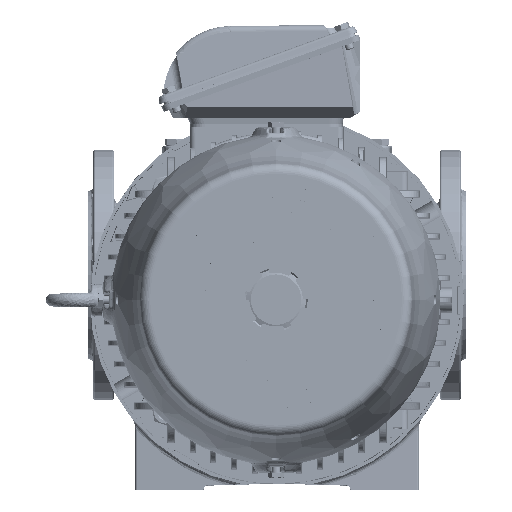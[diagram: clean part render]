
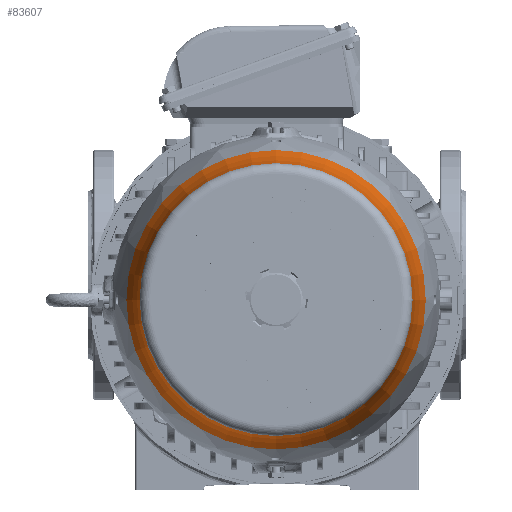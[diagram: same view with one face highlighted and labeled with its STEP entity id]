
A CAD part, top view. The second image highlights one B-rep face of the part: STEP entity #83607.
In plain terms, the highlighted toroidal (fillet/blend) face has major radius 308.616 mm and minor radius 180 mm.
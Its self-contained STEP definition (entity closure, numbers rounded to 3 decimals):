
#49=TOROIDAL_SURFACE('',#89882,308.617,180.);
#16005=FACE_OUTER_BOUND('',#20894,.T.);
#20894=EDGE_LOOP('',(#58692,#58693,#58694,#58695,#58696,#58697));
#26283=CIRCLE('',#89863,142.487);
#26284=CIRCLE('',#89864,142.487);
#26302=CIRCLE('',#89883,180.);
#26303=CIRCLE('',#89884,129.927);
#26304=CIRCLE('',#89885,129.927);
#34723=VERTEX_POINT('',#133903);
#34724=VERTEX_POINT('',#133907);
#34758=VERTEX_POINT('',#134197);
#34759=VERTEX_POINT('',#134199);
#43822=EDGE_CURVE('',#34723,#34724,#26283,.T.);
#43823=EDGE_CURVE('',#34724,#34723,#26284,.T.);
#43858=EDGE_CURVE('',#34723,#34758,#26302,.T.);
#43859=EDGE_CURVE('',#34758,#34759,#26303,.T.);
#43860=EDGE_CURVE('',#34759,#34758,#26304,.T.);
#58692=ORIENTED_EDGE('',*,*,#43823,.F.);
#58693=ORIENTED_EDGE('',*,*,#43822,.F.);
#58694=ORIENTED_EDGE('',*,*,#43858,.T.);
#58695=ORIENTED_EDGE('',*,*,#43859,.T.);
#58696=ORIENTED_EDGE('',*,*,#43860,.T.);
#58697=ORIENTED_EDGE('',*,*,#43858,.F.);
#83607=ADVANCED_FACE('',(#16005),#49,.F.);
#89863=AXIS2_PLACEMENT_3D('',#133908,#102002,#102003);
#89864=AXIS2_PLACEMENT_3D('',#133909,#102004,#102005);
#89882=AXIS2_PLACEMENT_3D('',#134196,#102040,#102041);
#89883=AXIS2_PLACEMENT_3D('',#134198,#102042,#102043);
#89884=AXIS2_PLACEMENT_3D('',#134200,#102044,#102045);
#89885=AXIS2_PLACEMENT_3D('',#134201,#102046,#102047);
#102002=DIRECTION('center_axis',(0.,0.,
-1.));
#102003=DIRECTION('ref_axis',(-1.,0.,0.));
#102004=DIRECTION('center_axis',(0.,0.,
-1.));
#102005=DIRECTION('ref_axis',(-1.,0.,0.));
#102040=DIRECTION('center_axis',(0.,0.,
-1.));
#102041=DIRECTION('ref_axis',(-1.,0.,0.));
#102042=DIRECTION('center_axis',(0.,1.,0.));
#102043=DIRECTION('ref_axis',(1.,0.,0.));
#102044=DIRECTION('center_axis',(0.,0.,
-1.));
#102045=DIRECTION('ref_axis',(-1.,0.,0.));
#102046=DIRECTION('center_axis',(0.,0.,
-1.));
#102047=DIRECTION('ref_axis',(-1.,0.,0.));
#133903=CARTESIAN_POINT('',(141.623,0.,553.399));
#133907=CARTESIAN_POINT('',(-143.35,0.,553.399));
#133908=CARTESIAN_POINT('Origin',(-0.863,0.,
553.399));
#133909=CARTESIAN_POINT('Origin',(-0.863,0.,
553.399));
#134196=CARTESIAN_POINT('Origin',(-0.863,0.,
622.687));
#134197=CARTESIAN_POINT('',(129.064,0.,601.005));
#134198=CARTESIAN_POINT('Origin',(307.753,0.,
622.687));
#134199=CARTESIAN_POINT('',(-130.791,0.,601.005));
#134200=CARTESIAN_POINT('Origin',(-0.863,0.,
601.005));
#134201=CARTESIAN_POINT('Origin',(-0.863,0.,
601.005));
